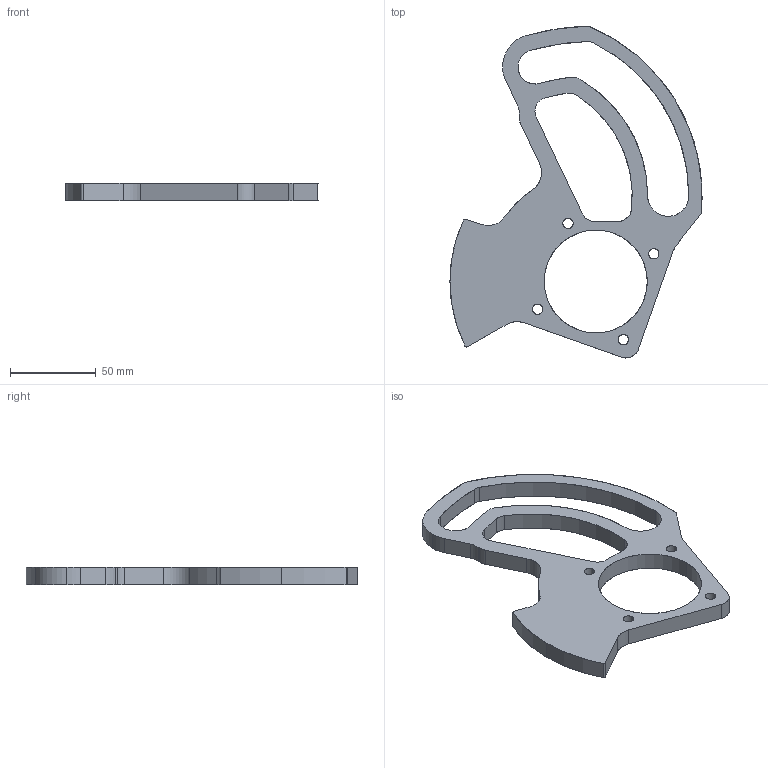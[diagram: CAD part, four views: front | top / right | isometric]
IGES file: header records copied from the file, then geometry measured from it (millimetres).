
Start section: SolidWorks IGES file using analytic representation for surfaces
Global section: file name: E:\Nouveau dossier\tarek\mécaniquee\L3GMCFM\TP0\EX9.IGS; native system: SolidWorks 2013; preprocessor: SolidWorks 2013; author: LENOVO; date: 180921.162125; units: millimetre
Bounding box: 146.99 x 193.53 x 10 mm (x, y, z)
Surface area: 33397.4 mm2 (no closed solid volume)
Topology: 0 solids, 0 shells, 54 faces, 914 edges, 914 vertices
Faces by surface type: revolution 43, bspline 11
